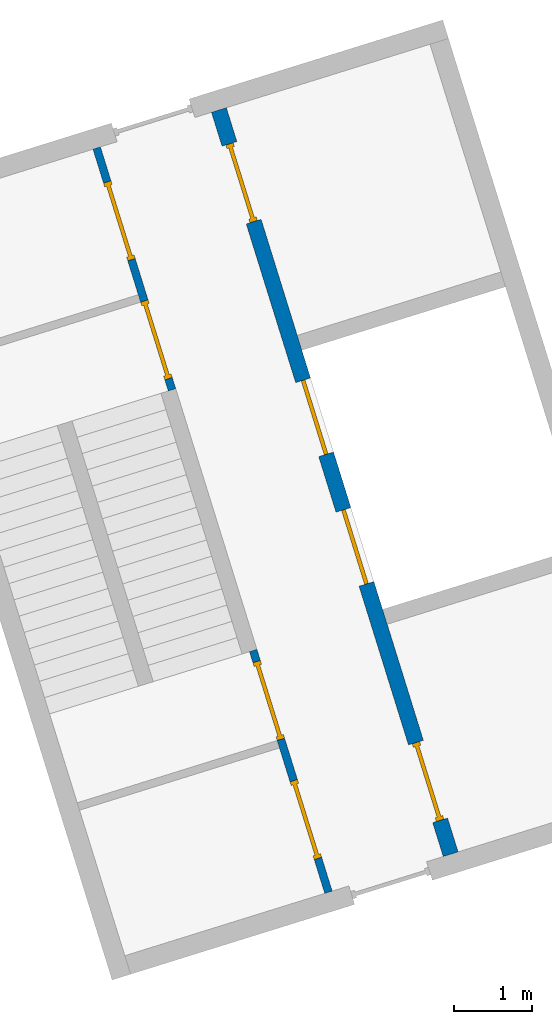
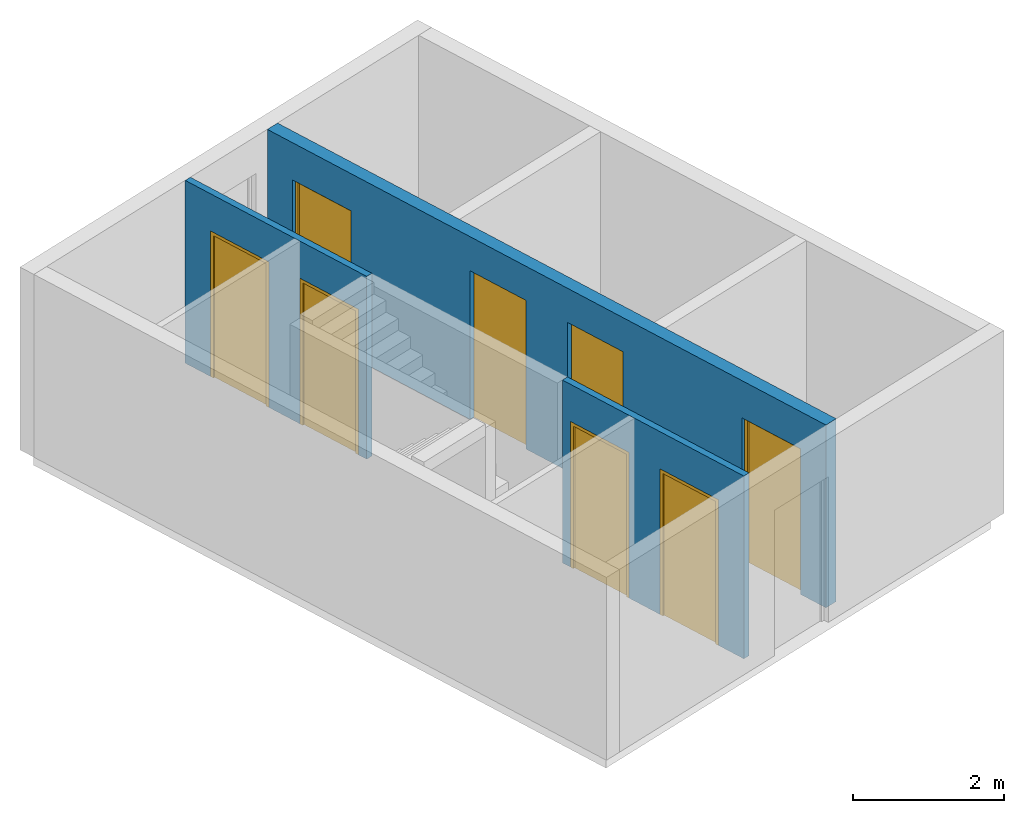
# One storey, part 2 of 3: 8 doors, 3 walls, 8 openings.
"""IFC4 building model written with IfcOpenShell, lengths in metres."""

from ifc_helpers import new_model, entity, si_unit, converted_unit, direction, frame, origin, place, context, subcontext, project, spatial, indexed_curve, outline, extrude, polygons, source, transform, mapped, material, constituent, constituent_set, type_object, type_shapes, element, fill, save


model = new_model("IFC4")

# Units and contexts
model_context = context("Model", 3, precision=1e-05, world=origin(), true_north=direction((6.12323399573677e-17, 1.0)))
body_context = subcontext(model_context, "Body", "Model", "MODEL_VIEW")
ifc_project = project(units=[si_unit("LENGTHUNIT", "METRE"), si_unit("AREAUNIT", "SQUARE_METRE"), converted_unit("PLANEANGLEUNIT", "DEGREE", entity("IfcPlaneAngleMeasure", 0.0174532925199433), si_unit("PLANEANGLEUNIT", "RADIAN"), dimensions=[0, 0, 0, 0, 0, 0, 0]), si_unit("VOLUMEUNIT", "CUBIC_METRE")], contexts=[model_context])

# Site, building, storey
site_placement = place(None, frame((13.1347999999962, 11.9886000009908, 0.0), z_axis=(0.0, 0.0, 1.0), x_axis=(0.954770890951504, 0.297342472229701, 0.0)))
site = spatial("IfcSite", under=ifc_project, at=site_placement, Name="Schiehaven", CompositionType="ELEMENT")
building_placement = place(site_placement, origin())
building = spatial("IfcBuilding", under=site, at=building_placement, Name="VORM huis", CompositionType="ELEMENT")
storey_placement = place(building_placement, frame((0.0, 0.0, -3.2)))
storey = spatial("IfcBuildingStorey", under=building, at=storey_placement, Name="-1 kelder", CompositionType="ELEMENT", Elevation=-3.2)

# Wall, openings, doors
ifc_material_1 = material(Name="beton_gewapend_prefab-element", Category="Miscellaneous")
wall_type_1 = type_object("IfcWallType", Name="Basic Wall:28_WA_skelet_wand 200mm_gen", PredefinedType="STANDARD")
wall_1_placement = place(storey_placement, frame((69.5250000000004, 22.0749999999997, 0.0), z_axis=(0.0, 0.0, 1.0), x_axis=(0.0, -1.0, 0.0)))
wall_1 = element("IfcWall", 1, at=wall_1_placement, inside=storey, type_object=wall_type_1, material=ifc_material_1, Name="Constructieve wand", ObjectType="Wand", PredefinedType="NOTDEFINED", context=body_context, shape_type="Tessellation", body=[
    polygons([(1.50749999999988, -0.099999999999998, 2.34999999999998), (1.50749999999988, -0.099999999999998, 0.0), (3.64999999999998, -0.100000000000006, 0.0), (3.64999999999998, -0.100000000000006, 2.39999999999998), (4.64999999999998, -0.099999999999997, 2.39999999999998), (4.64999999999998, -0.099999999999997, 0.0), (5.39999999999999, -0.0999999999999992, 0.0), (5.39999999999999, -0.0999999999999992, 2.39999999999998), (6.39999999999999, -0.0999999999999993, 2.39999999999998), (6.39999999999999, -0.0999999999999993, 0.0), (8.54249999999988, -0.0999999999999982, 0.0), (8.54249999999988, -0.0999999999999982, 2.34999999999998), (9.59249999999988, -0.0999999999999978, 2.34999999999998), (9.59249999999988, -0.0999999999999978, 0.0), (10.05, -0.0999999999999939, 0.0), (10.05, -0.0999999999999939, 2.95), (0.0, -0.0999999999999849, 2.95), (0.0, -0.0999999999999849, 0.0), (0.457499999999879, -0.0999999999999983, 0.0), (0.457499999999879, -0.0999999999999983, 2.34999999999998), (3.64999999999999, 0.100000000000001, 0.0), (3.27499999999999, 0.0999999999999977, 0.0), (3.07499999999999, 0.100000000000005, 0.0), (1.50749999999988, 0.0999999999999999, 0.0), (1.50749999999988, 0.0999999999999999, 2.34999999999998), (0.457499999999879, 0.0999999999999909, 2.34999999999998), (0.457499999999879, 0.0999999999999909, 0.0), (0.0, 0.100000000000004, 0.0), (0.0, 0.100000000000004, 2.95), (3.07499999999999, 0.100000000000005, 2.95), (3.27499999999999, 0.0999999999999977, 2.95), (6.77499999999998, 0.100000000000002, 2.95), (6.97499999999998, 0.100000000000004, 2.95), (10.05, 0.100000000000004, 2.95), (10.05, 0.100000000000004, 0.0), (9.59249999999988, 0.1, 0.0), (9.59249999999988, 0.1, 2.34999999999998), (8.54249999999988, 0.099999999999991, 2.34999999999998), (8.54249999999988, 0.099999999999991, 0.0), (6.97499999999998, 0.100000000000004, 0.0), (6.77499999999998, 0.100000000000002, 0.0), (6.39999999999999, 0.0999999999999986, 0.0), (6.39999999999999, 0.0999999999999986, 2.39999999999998), (5.39999999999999, 0.0999999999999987, 2.39999999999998), (5.39999999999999, 0.0999999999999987, 0.0), (4.64999999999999, 0.10000000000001, 0.0), (4.64999999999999, 0.10000000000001, 2.39999999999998), (3.64999999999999, 0.100000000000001, 2.39999999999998)], [[[1, 2, 3, 4, 5, 6, 7, 8, 9, 10, 11, 12, 13, 14, 15, 16, 17, 18, 19, 20]], [[21, 22, 23, 24, 25, 26, 27, 28, 29, 30, 31, 32, 33, 34, 35, 36, 37, 38, 39, 40, 41, 42, 43, 44, 45, 46, 47, 48]], [[19, 18, 28, 27]], [[16, 15, 35, 34]], [[17, 16, 34, 33, 32, 31, 30, 29]], [[18, 17, 29, 28]], [[5, 47, 46, 6]], [[48, 4, 3, 21]], [[47, 5, 4, 48]], [[9, 43, 42, 10]], [[44, 8, 7, 45]], [[43, 9, 8, 44]], [[27, 26, 20, 19]], [[25, 24, 2, 1]], [[26, 25, 1, 20]], [[14, 13, 37, 36]], [[12, 11, 39, 38]], [[13, 12, 38, 37]], [[3, 2, 24, 23, 22, 21]], [[6, 46, 45, 7]], [[36, 35, 15, 14]], [[42, 41, 40, 39, 11, 10]]], closed=True),
])
opening_1_placement = place(wall_1_placement, frame((22.0749999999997, -69.5250000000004, 0.0), z_axis=(0.0, 0.0, 1.0), x_axis=(0.0, 1.0, 0.0)))
opening_1 = element("IfcOpeningElement", 2, at=opening_1_placement, cuts=wall_1, Name="Brandweerlift", PredefinedType="OPENING", context=body_context, shape_type="SweptSolid", body=[
    extrude(outline(indexed_curve([(-1.19999999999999, -0.499999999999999), (1.19999999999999, -0.499999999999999), (1.19999999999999, 0.500000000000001), (-1.19999999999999, 0.500000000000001), (-1.19999999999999, -0.499999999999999)], self_intersect=False)), frame((69.2563279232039, 17.9249999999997, 1.19999999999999), z_axis=(1.0, 0.0, 0.0), x_axis=(0.0, 0.0, -1.0)), (0.0, 0.0, 1.0), 0.756310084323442),
])
opening_2_placement = place(wall_1_placement, frame((22.0749999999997, -69.5250000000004, 0.0), z_axis=(0.0, 0.0, 1.0), x_axis=(0.0, 1.0, 0.0)))
opening_2 = element("IfcOpeningElement", 3, at=opening_2_placement, cuts=wall_1, Name="Brandweerlift", PredefinedType="OPENING", context=body_context, shape_type="SweptSolid", body=[
    extrude(outline(indexed_curve([(-1.19999999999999, -0.500000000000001), (1.19999999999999, -0.500000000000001), (1.19999999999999, 0.499999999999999), (-1.19999999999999, 0.499999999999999), (-1.19999999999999, -0.500000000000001)], self_intersect=False)), frame((69.2563279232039, 16.1749999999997, 1.19999999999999), z_axis=(1.0, 0.0, 0.0), x_axis=(0.0, 0.0, -1.0)), (0.0, 0.0, 1.0), 0.756310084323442),
])
opening_3_placement = place(wall_1_placement, frame((9.59249999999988, 0.0999999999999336, 0.0)))
opening_3 = element("IfcOpeningElement", 4, at=opening_3_placement, cuts=wall_1, Name="Vluchtdeur", PredefinedType="OPENING", context=body_context, shape_type="SweptSolid", body=[
    extrude(outline(indexed_curve([(2.34999999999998, 1.08286712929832e-15), (2.34999999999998, 1.05), (0.0, 1.05), (0.0, 1.08286712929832e-15), (2.34999999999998, 1.08286712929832e-15)], self_intersect=False)), frame((0.0, 0.0, 0.0), z_axis=(0.0, -1.0, 0.0), x_axis=(0.0, 0.0, 1.0)), (0.0, 0.0, 1.0), 0.2),
])
opening_4_placement = place(wall_1_placement, frame((1.50749999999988, 0.100000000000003, 0.0)))
opening_4 = element("IfcOpeningElement", 5, at=opening_4_placement, cuts=wall_1, Name="Vluchtdeur", PredefinedType="OPENING", context=body_context, shape_type="SweptSolid", body=[
    extrude(outline(indexed_curve([(2.34999999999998, 1.05), (0.0, 1.05), (0.0, -7.13446048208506e-29), (2.34999999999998, -7.13446048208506e-29), (2.34999999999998, 1.05)], self_intersect=False)), frame((0.0, 0.0, 0.0), z_axis=(0.0, -1.0, 0.0), x_axis=(0.0, 0.0, 1.0)), (0.0, 0.0, 1.0), 0.2),
])
ifc_material_2 = material(Name="metaal_aluminium_ntb", Category="Miscellaneous")
door_type_1 = type_object("IfcDoorType", Name="66_WI_liftdeur:brandweerlift - eenzijdig toegankelijk", OperationType="NOTDEFINED", PredefinedType="DOOR", material=ifc_material_2)
shared_shape_1 = source(origin(), body_context, "Body", "SweptSolid", [
    extrude(outline(indexed_curve([(-0.0250000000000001, -0.25), (0.0249999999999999, -0.25), (0.0250000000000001, 0.25), (-0.0249999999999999, 0.25), (-0.0250000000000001, -0.25)], self_intersect=False)), frame((0.250000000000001, 0.487638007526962, 0.0), z_axis=(0.0, 0.0, 1.0), x_axis=(0.0, 1.0, 0.0)), (0.0, 0.0, 1.0), 2.39999999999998),
    extrude(outline(indexed_curve([(-0.0250000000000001, -0.25), (0.0249999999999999, -0.25), (0.0250000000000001, 0.25), (-0.0249999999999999, 0.25), (-0.0250000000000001, -0.25)], self_intersect=False)), frame((0.750000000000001, 0.48763800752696, 0.0), z_axis=(0.0, 0.0, 1.0), x_axis=(0.0, 1.0, 0.0)), (0.0, 0.0, 1.0), 2.39999999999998),
])
type_shapes(door_type_1, [shared_shape_1])
door_1_placement = place(opening_1_placement, frame((70.0126380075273, 17.4249999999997, 0.0), z_axis=(0.0, 0.0, 1.0), x_axis=(0.0, 1.0, 0.0)))
door_1 = element("IfcDoor", 6, at=door_1_placement, inside=storey, type_object=door_type_1, material=ifc_material_2, Name="Brandweerlift", ObjectType="Transport", OperationType="NOTDEFINED", OverallHeight=2.39999999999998, OverallWidth=1.0, PredefinedType="DOOR", context=body_context, shape_type="MappedRepresentation", body=[
    mapped(shared_shape_1, transform((0.0, 0.0, 0.0), scale=1.0)),
])
fill(opening_1, door_1)
door_2_placement = place(opening_2_placement, frame((70.0126380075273, 15.6749999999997, 0.0), z_axis=(0.0, 0.0, 1.0), x_axis=(0.0, 1.0, 0.0)))
door_2 = element("IfcDoor", 7, at=door_2_placement, inside=storey, type_object=door_type_1, material=ifc_material_2, Name="Brandweerlift", ObjectType="Transport", OperationType="NOTDEFINED", OverallHeight=2.39999999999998, OverallWidth=1.0, PredefinedType="DOOR", context=body_context, shape_type="MappedRepresentation", body=[
    mapped(shared_shape_1, transform((0.0, 0.0, 0.0), scale=1.0)),
])
fill(opening_2, door_2)
ifc_material_3 = material(Name="PD_a_binnenwandopeningen", Category="Miscellaneous")
ifc_constituent_1 = constituent(ifc_material_3, Name="PD_a_binnenwandopeningen", Category="Miscellaneous")
ifc_constituent_2 = constituent(ifc_material_2, Name="metaal_aluminium_ntb", Category="Miscellaneous")
ifc_constituent_set_1 = constituent_set(constituents=[ifc_constituent_1, ifc_constituent_2])
ifc_constituent_3 = constituent(ifc_material_3, Name="PD_a_binnenwandopeningen", Category="Miscellaneous")
ifc_constituent_4 = constituent(ifc_material_2, Name="Panel", Category="Miscellaneous")
ifc_constituent_set_2 = constituent_set(constituents=[ifc_constituent_3, ifc_constituent_4])
door_type_2 = type_object("IfcDoorType", Name="32_DO_binnendeur enkel:binnendeur zelfsluitend 30min", OperationType="NOTDEFINED", PredefinedType="DOOR", material=ifc_constituent_set_2)
shared_shape_2 = source(origin(), body_context, "Body", "SweptSolid", [
    extrude(outline(indexed_curve([(0.475, -1.16249999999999), (0.525, -1.16249999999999), (0.525, 1.18749999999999), (-0.525, 1.18749999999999), (-0.525, -1.16249999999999), (-0.475, -1.16249999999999), (-0.475, 1.13749999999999), (0.475, 1.13749999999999), (0.475, -1.16249999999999)], self_intersect=False)), frame((0.525000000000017, 0.149999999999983, 1.16249999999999), z_axis=(0.0, -1.0, 0.0), x_axis=(1.0, 0.0, 0.0)), (0.0, 0.0, 1.0), 0.1),
    extrude(outline(indexed_curve([(-0.475, -0.025), (0.475, -0.025), (0.475, 0.025), (-0.475, 0.025), (-0.475, -0.025)], self_intersect=False)), frame((0.525000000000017, 0.0999999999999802, 0.0)), (0.0, 0.0, 1.0), 2.29999999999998),
])
type_shapes(door_type_2, [shared_shape_2])
door_3_placement = place(opening_3_placement, frame((0.0, 0.0, 0.0), z_axis=(0.0, 0.0, 1.0), x_axis=(-1.0, 0.0, 0.0)))
door_3 = element("IfcDoor", 8, at=door_3_placement, inside=storey, type_object=door_type_2, material=ifc_constituent_set_1, Name="Vluchtdeur", ObjectType="Deur", OperationType="NOTDEFINED", OverallHeight=2.34999999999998, OverallWidth=1.05, PredefinedType="DOOR", context=body_context, shape_type="MappedRepresentation", body=[
    mapped(shared_shape_2, transform((0.0, 0.0, 0.0), scale=1.0)),
])
fill(opening_3, door_3)
ifc_constituent_5 = constituent(ifc_material_3, Name="PD_a_binnenwandopeningen", Category="Miscellaneous")
ifc_constituent_6 = constituent(ifc_material_2, Name="metaal_aluminium_ntb", Category="Miscellaneous")
ifc_constituent_set_3 = constituent_set(constituents=[ifc_constituent_5, ifc_constituent_6])
ifc_constituent_7 = constituent(ifc_material_3, Name="PD_a_binnenwandopeningen", Category="Miscellaneous")
ifc_constituent_8 = constituent(ifc_material_2, Name="Panel", Category="Miscellaneous")
ifc_constituent_set_4 = constituent_set(constituents=[ifc_constituent_7, ifc_constituent_8])
door_type_3 = type_object("IfcDoorType", Name="32_DO_binnendeur enkel:binnendeur zelfsluitend 30min", OperationType="NOTDEFINED", PredefinedType="DOOR", material=ifc_constituent_set_4)
shared_shape_3 = source(origin(), body_context, "Body", "SweptSolid", [
    extrude(outline(indexed_curve([(-1.16249999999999, -0.525), (1.18749999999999, -0.525000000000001), (1.18749999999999, 0.525), (-1.16249999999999, 0.525), (-1.16249999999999, 0.475), (1.13749999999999, 0.475), (1.13749999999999, -0.475), (-1.16249999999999, -0.475), (-1.16249999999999, -0.525)], self_intersect=False)), frame((0.525000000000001, 0.0499999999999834, 1.16249999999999), z_axis=(0.0, 1.0, 0.0), x_axis=(0.0, 0.0, 1.0)), (0.0, 0.0, 1.0), 0.1),
    extrude(outline(indexed_curve([(-0.025, -0.475), (0.025, -0.475), (0.025, 0.475), (-0.025, 0.475), (-0.025, -0.475)], self_intersect=False)), frame((0.525000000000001, 0.0999999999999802, 0.0), z_axis=(0.0, 0.0, 1.0), x_axis=(0.0, 1.0, 0.0)), (0.0, 0.0, 1.0), 2.29999999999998),
])
type_shapes(door_type_3, [shared_shape_3])
door_4_placement = place(opening_4_placement, frame((0.0, 0.0, 0.0), z_axis=(0.0, 0.0, 1.0), x_axis=(-1.0, 0.0, 0.0)))
door_4 = element("IfcDoor", 9, at=door_4_placement, inside=storey, type_object=door_type_3, material=ifc_constituent_set_3, Name="Vluchtdeur", ObjectType="Deur", OperationType="NOTDEFINED", OverallHeight=2.34999999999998, OverallWidth=1.05, PredefinedType="DOOR", context=body_context, shape_type="MappedRepresentation", body=[
    mapped(shared_shape_3, transform((0.0, 0.0, 0.0), scale=1.0)),
])
fill(opening_4, door_4)

ifc_material_4 = material(Name="ntb_ntb_ntb", Category="Miscellaneous")
wall_type_2 = type_object("IfcWallType", Name="Basic Wall:22_WA_afbouw_binnenwand 100mm_gen", PredefinedType="STANDARD")
wall_2_placement = place(storey_placement, frame((67.8750000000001, 22.0749999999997, 0.0), z_axis=(0.0, 0.0, 1.0), x_axis=(0.0, -1.0, 0.0)))
wall_2 = element("IfcWall", 10, at=wall_2_placement, inside=storey, type_object=wall_type_2, material=ifc_material_4, Name="Binnenwand", ObjectType="Wand", PredefinedType="NOTDEFINED", context=body_context, shape_type="Tessellation", body=[
    polygons([(0.0, -0.0500000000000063, 0.0), (0.457499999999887, -0.0500000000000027, 0.0), (0.457499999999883, -0.0500000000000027, 2.34999999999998), (1.50749999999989, -0.0500000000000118, 2.34999999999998), (1.50749999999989, -0.0500000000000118, 0.0), (1.96499999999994, -0.0500000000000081, 0.0), (2.06499999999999, -0.0500000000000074, 0.0), (2.06499999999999, -0.0500000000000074, 2.34999999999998), (3.11499999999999, -0.0500000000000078, 2.34999999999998), (3.11499999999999, -0.0500000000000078, 0.0), (3.26499999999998, -0.0500000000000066, 0.0), (3.26499999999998, -0.0500000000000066, 2.95), (2.06499999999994, -0.0500000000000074, 2.95), (1.96499999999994, -0.0500000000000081, 2.95), (0.0, -0.0500000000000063, 2.95), (0.457499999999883, 0.0500000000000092, 2.34999999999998), (0.457499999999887, 0.0500000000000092, 0.0), (0.0, 0.0500000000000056, 0.0), (0.0, 0.0500000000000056, 2.95), (3.26499999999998, 0.0499999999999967, 2.95), (3.26499999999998, 0.0499999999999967, 0.0), (3.11499999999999, 0.0499999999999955, 0.0), (3.11499999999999, 0.0499999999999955, 2.34999999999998), (2.06499999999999, 0.0499999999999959, 2.34999999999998), (2.06499999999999, 0.0499999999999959, 0.0), (1.50749999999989, 0.0500000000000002, 0.0), (1.50749999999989, 0.0500000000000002, 2.34999999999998)], [[[1, 2, 3, 4, 5, 6, 7, 8, 9, 10, 11, 12, 13, 14, 15]], [[16, 17, 18, 19, 20, 21, 22, 23, 24, 25, 26, 27]], [[18, 17, 2, 1]], [[12, 11, 21, 20]], [[15, 14, 13, 12, 20, 19]], [[1, 15, 19, 18]], [[24, 8, 7, 25]], [[9, 23, 22, 10]], [[8, 24, 23, 9]], [[5, 4, 27, 26]], [[3, 2, 17, 16]], [[4, 3, 16, 27]], [[26, 25, 7, 6, 5]], [[21, 11, 10, 22]]], closed=True),
])
opening_5_placement = place(wall_2_placement, frame((3.11499999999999, 0.0499999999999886, 0.0)))
opening_5 = element("IfcOpeningElement", 11, at=opening_5_placement, cuts=wall_2, Name="Vluchtdeur", PredefinedType="OPENING", context=body_context, shape_type="SweptSolid", body=[
    extrude(outline(indexed_curve([(2.34999999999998, 1.05), (0.0, 1.05), (0.0, 1.08286712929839e-15), (2.34999999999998, 1.08286712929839e-15), (2.34999999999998, 1.05)], self_intersect=False)), frame((0.0, 0.0, 0.0), z_axis=(0.0, -1.0, 0.0), x_axis=(0.0, 0.0, 1.0)), (0.0, 0.0, 1.0), 0.1),
])
opening_6_placement = place(wall_2_placement, frame((0.457499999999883, -0.0499999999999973, 0.0)))
opening_6 = element("IfcOpeningElement", 12, at=opening_6_placement, cuts=wall_2, Name="Vluchtdeur", PredefinedType="OPENING", context=body_context, shape_type="SweptSolid", body=[
    extrude(outline(indexed_curve([(2.34999999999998, 1.05), (0.0, 1.05), (0.0, 0.0), (2.34999999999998, 0.0), (2.34999999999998, 1.05)], self_intersect=False)), frame((0.0, 0.0, 0.0), z_axis=(0.0, 1.0, 0.0), x_axis=(0.0, 0.0, 1.0)), (0.0, 0.0, 1.0), 0.1),
])
ifc_constituent_9 = constituent(ifc_material_3, Name="PD_a_binnenwandopeningen", Category="Miscellaneous")
ifc_constituent_10 = constituent(ifc_material_2, Name="metaal_aluminium_ntb", Category="Miscellaneous")
ifc_constituent_set_5 = constituent_set(constituents=[ifc_constituent_9, ifc_constituent_10])
ifc_constituent_11 = constituent(ifc_material_3, Name="PD_a_binnenwandopeningen", Category="Miscellaneous")
ifc_constituent_12 = constituent(ifc_material_2, Name="Panel", Category="Miscellaneous")
ifc_constituent_set_6 = constituent_set(constituents=[ifc_constituent_11, ifc_constituent_12])
door_type_4 = type_object("IfcDoorType", Name="32_DO_binnendeur enkel:binnendeur zelfsluitend 30min", OperationType="NOTDEFINED", PredefinedType="DOOR", material=ifc_constituent_set_6)
shared_shape_4 = source(origin(), body_context, "Body", "SweptSolid", [
    extrude(outline(indexed_curve([(-1.16249999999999, -0.525000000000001), (1.18749999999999, -0.525), (1.18749999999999, 0.525), (-1.16249999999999, 0.525), (-1.16249999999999, 0.475), (1.13749999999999, 0.475), (1.13749999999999, -0.475), (-1.16249999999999, -0.475), (-1.16249999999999, -0.525000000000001)], self_intersect=False)), frame((0.525000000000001, 0.0, 1.16249999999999), z_axis=(0.0, 1.0, 0.0), x_axis=(0.0, 0.0, 1.0)), (0.0, 0.0, 1.0), 0.1),
    extrude(outline(indexed_curve([(-0.025, -0.475), (0.025, -0.475), (0.025, 0.475), (-0.025, 0.475), (-0.025, -0.475)], self_intersect=False)), frame((0.525000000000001, 0.0499999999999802, 0.0), z_axis=(0.0, 0.0, 1.0), x_axis=(0.0, 1.0, 0.0)), (0.0, 0.0, 1.0), 2.29999999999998),
])
type_shapes(door_type_4, [shared_shape_4])
door_5_placement = place(opening_5_placement, frame((0.0, 0.0, 0.0), z_axis=(0.0, 0.0, 1.0), x_axis=(-1.0, 0.0, 0.0)))
door_5 = element("IfcDoor", 13, at=door_5_placement, inside=storey, type_object=door_type_4, material=ifc_constituent_set_5, Name="Vluchtdeur", ObjectType="Deur", OperationType="NOTDEFINED", OverallHeight=2.34999999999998, OverallWidth=1.05, PredefinedType="DOOR", context=body_context, shape_type="MappedRepresentation", body=[
    mapped(shared_shape_4, transform((0.0, 0.0, 0.0), scale=1.0)),
])
fill(opening_5, door_5)
ifc_constituent_13 = constituent(ifc_material_3, Name="PD_a_binnenwandopeningen", Category="Miscellaneous")
ifc_constituent_14 = constituent(ifc_material_2, Name="metaal_aluminium_ntb", Category="Miscellaneous")
ifc_constituent_set_7 = constituent_set(constituents=[ifc_constituent_13, ifc_constituent_14])
door_6_placement = place(opening_6_placement, origin())
door_6 = element("IfcDoor", 14, at=door_6_placement, inside=storey, type_object=door_type_4, material=ifc_constituent_set_7, Name="Vluchtdeur", ObjectType="Deur", OperationType="NOTDEFINED", OverallHeight=2.34999999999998, OverallWidth=1.05, PredefinedType="DOOR", context=body_context, shape_type="MappedRepresentation", body=[
    mapped(shared_shape_4, transform((0.0, 0.0, 0.0), scale=1.0)),
])
fill(opening_6, door_6)

wall_3_placement = place(storey_placement, frame((67.875, 12.0249999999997, 0.0), z_axis=(0.0, 0.0, 1.0), x_axis=(0.0, 1.0, 0.0)))
wall_3 = element("IfcWall", 15, at=wall_3_placement, inside=storey, type_object=wall_type_2, material=ifc_material_4, Name="Binnenwand", ObjectType="Wand", PredefinedType="NOTDEFINED", context=body_context, shape_type="Tessellation", body=[
    polygons([(0.0, -0.0500000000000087, 0.0), (0.457500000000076, -0.0500000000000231, 0.0), (0.457500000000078, -0.0500000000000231, 2.34999999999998), (1.50750000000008, -0.0500000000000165, 2.34999999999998), (1.50750000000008, -0.0500000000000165, 0.0), (2.06499999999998, -0.0500000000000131, 0.0), (2.06499999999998, -0.0500000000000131, 2.34999999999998), (3.11499999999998, -0.0500000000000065, 2.34999999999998), (3.11499999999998, -0.0500000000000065, 0.0), (3.26499999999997, -0.0500000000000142, 0.0), (3.26499999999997, -0.0500000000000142, 2.95), (0.0, -0.0500000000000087, 2.95), (0.457500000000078, 0.0499999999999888, 2.34999999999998), (0.457500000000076, 0.0499999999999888, 0.0), (0.0, 0.0500000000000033, 0.0), (0.0, 0.0500000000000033, 2.95), (1.96499999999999, 0.0499999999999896, 2.95), (2.06499999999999, 0.0499999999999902, 2.95), (3.26499999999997, 0.049999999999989, 2.95), (3.26499999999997, 0.049999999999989, 0.0), (3.11499999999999, 0.0499999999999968, 0.0), (3.11499999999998, 0.0499999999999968, 2.34999999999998), (2.06499999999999, 0.0499999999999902, 2.34999999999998), (2.06499999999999, 0.0499999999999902, 0.0), (1.96499999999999, 0.0499999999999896, 0.0), (1.50750000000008, 0.0499999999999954, 0.0), (1.50750000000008, 0.0499999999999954, 2.34999999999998)], [[[1, 2, 3, 4, 5, 6, 7, 8, 9, 10, 11, 12]], [[13, 14, 15, 16, 17, 18, 19, 20, 21, 22, 23, 24, 25, 26, 27]], [[15, 14, 2, 1]], [[11, 10, 20, 19]], [[12, 11, 19, 18, 17, 16]], [[1, 12, 16, 15]], [[23, 7, 6, 24]], [[7, 23, 22, 8]], [[8, 22, 21, 9]], [[5, 4, 27, 26]], [[3, 2, 14, 13]], [[4, 3, 13, 27]], [[26, 25, 24, 6, 5]], [[20, 10, 9, 21]]], closed=True),
])
opening_7_placement = place(wall_3_placement, frame((2.06499999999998, -0.0500000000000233, 0.0)))
opening_7 = element("IfcOpeningElement", 16, at=opening_7_placement, cuts=wall_3, Name="Vluchtdeur", PredefinedType="OPENING", context=body_context, shape_type="SweptSolid", body=[
    extrude(outline(indexed_curve([(2.34999999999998, 1.05), (0.0, 1.05), (0.0, 1.35358391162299e-15), (2.34999999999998, 1.35358391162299e-15), (2.34999999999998, 1.05)], self_intersect=False)), frame((0.0, 0.0, 0.0), z_axis=(0.0, 1.0, 0.0), x_axis=(0.0, 0.0, 1.0)), (0.0, 0.0, 1.0), 0.1),
])
opening_8_placement = place(wall_3_placement, frame((1.50750000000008, 0.04999999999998, 0.0)))
opening_8 = element("IfcOpeningElement", 17, at=opening_8_placement, cuts=wall_3, Name="Vluchtdeur", PredefinedType="OPENING", context=body_context, shape_type="SweptSolid", body=[
    extrude(outline(indexed_curve([(2.34999999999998, 1.35358391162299e-15), (2.34999999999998, 1.05), (0.0, 1.05), (0.0, 1.35358391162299e-15), (2.34999999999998, 1.35358391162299e-15)], self_intersect=False)), frame((0.0, 0.0, 0.0), z_axis=(0.0, -1.0, 0.0), x_axis=(0.0, 0.0, 1.0)), (0.0, 0.0, 1.0), 0.1),
])
ifc_constituent_15 = constituent(ifc_material_3, Name="PD_a_binnenwandopeningen", Category="Miscellaneous")
ifc_constituent_16 = constituent(ifc_material_2, Name="metaal_aluminium_ntb", Category="Miscellaneous")
ifc_constituent_set_8 = constituent_set(constituents=[ifc_constituent_15, ifc_constituent_16])
ifc_constituent_17 = constituent(ifc_material_3, Name="PD_a_binnenwandopeningen", Category="Miscellaneous")
ifc_constituent_18 = constituent(ifc_material_2, Name="Panel", Category="Miscellaneous")
ifc_constituent_set_9 = constituent_set(constituents=[ifc_constituent_17, ifc_constituent_18])
door_type_5 = type_object("IfcDoorType", Name="32_DO_binnendeur enkel:binnendeur zelfsluitend 30min", OperationType="NOTDEFINED", PredefinedType="DOOR", material=ifc_constituent_set_9)
shared_shape_5 = source(origin(), body_context, "Body", "SweptSolid", [
    extrude(outline(indexed_curve([(0.475, -1.16249999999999), (0.525, -1.16249999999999), (0.525, 1.18749999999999), (-0.525, 1.18749999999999), (-0.525, -1.16249999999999), (-0.475, -1.16249999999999), (-0.475, 1.13749999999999), (0.475, 1.13749999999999), (0.475, -1.16249999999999)], self_intersect=False)), frame((0.525000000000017, 0.100000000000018, 1.16249999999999), z_axis=(0.0, -1.0, 0.0), x_axis=(1.0, 0.0, 0.0)), (0.0, 0.0, 1.0), 0.1),
    extrude(outline(indexed_curve([(-0.475, -0.025), (0.475, -0.025), (0.475, 0.025), (-0.475, 0.025), (-0.475, -0.025)], self_intersect=False)), frame((0.525000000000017, 0.0499999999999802, 0.0)), (0.0, 0.0, 1.0), 2.29999999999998),
])
type_shapes(door_type_5, [shared_shape_5])
door_7_placement = place(opening_8_placement, frame((0.0, 0.0, 0.0), z_axis=(0.0, 0.0, 1.0), x_axis=(-1.0, 0.0, 0.0)))
door_7 = element("IfcDoor", 18, at=door_7_placement, inside=storey, type_object=door_type_5, material=ifc_constituent_set_8, Name="Vluchtdeur", ObjectType="Deur", OperationType="NOTDEFINED", OverallHeight=2.34999999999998, OverallWidth=1.05, PredefinedType="DOOR", context=body_context, shape_type="MappedRepresentation", body=[
    mapped(shared_shape_5, transform((0.0, 0.0, 0.0), scale=1.0)),
])
fill(opening_8, door_7)
ifc_constituent_19 = constituent(ifc_material_3, Name="PD_a_binnenwandopeningen", Category="Miscellaneous")
ifc_constituent_20 = constituent(ifc_material_2, Name="metaal_aluminium_ntb", Category="Miscellaneous")
ifc_constituent_set_10 = constituent_set(constituents=[ifc_constituent_19, ifc_constituent_20])
door_8_placement = place(opening_7_placement, origin())
door_8 = element("IfcDoor", 19, at=door_8_placement, inside=storey, type_object=door_type_4, material=ifc_constituent_set_10, Name="Vluchtdeur", ObjectType="Deur", OperationType="NOTDEFINED", OverallHeight=2.34999999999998, OverallWidth=1.05, PredefinedType="DOOR", context=body_context, shape_type="MappedRepresentation", body=[
    mapped(shared_shape_4, transform((0.0, 0.0, 0.0), scale=1.0)),
])
fill(opening_7, door_8)

save(model, "model.ifc")
